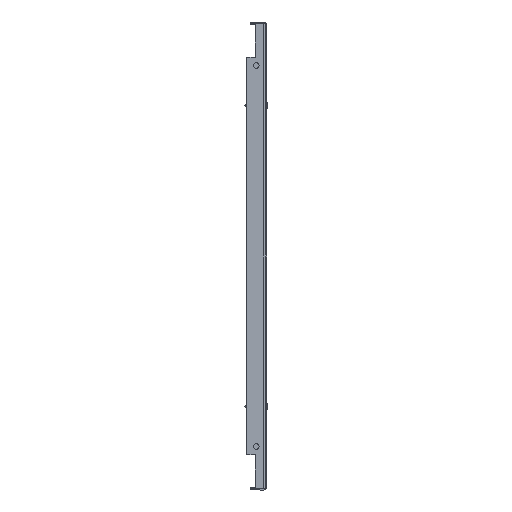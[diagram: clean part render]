
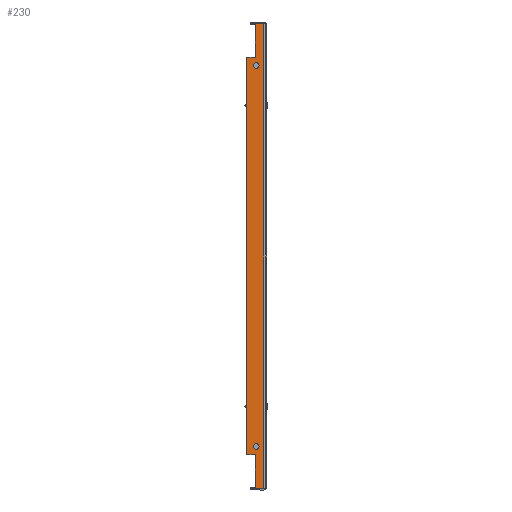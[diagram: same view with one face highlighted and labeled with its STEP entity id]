
A CAD part, front view. The second image highlights one B-rep face of the part: STEP entity #230.
In plain terms, the highlighted planar face has unit normal (0, -1, 0).
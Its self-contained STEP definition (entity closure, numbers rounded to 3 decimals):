
#102 = EDGE_CURVE ( 'NONE', #4314, #9450, #3471, .T. ) ;
#198 = VERTEX_POINT ( 'NONE', #2641 ) ;
#230 = ADVANCED_FACE ( 'NONE', ( #3198, #3211, #3208 ), #2445, .F. ) ;
#466 = DIRECTION ( 'NONE',  ( -1., 0., 0. ) ) ;
#636 = CARTESIAN_POINT ( 'NONE',  ( -196.911, -691.5, 10.003 ) ) ;
#660 = VERTEX_POINT ( 'NONE', #8490 ) ;
#721 = CARTESIAN_POINT ( 'NONE',  ( 196.911, -691.5, 10.003 ) ) ;
#891 = EDGE_CURVE ( 'NONE', #8601, #9450, #1405, .T. ) ;
#903 = EDGE_CURVE ( 'NONE', #3671, #8969, #1383, .T. ) ;
#1377 = AXIS2_PLACEMENT_3D ( 'NONE', #7249, #7227, #7210 ) ;
#1383 = CIRCLE ( 'NONE', #5848, 2.781 ) ;
#1396 = CIRCLE ( 'NONE', #3361, 2.781 ) ;
#1405 = LINE ( 'NONE', #5035, #4795 ) ;
#1726 = DIRECTION ( 'NONE',  ( -1., 0., 0. ) ) ;
#1791 = EDGE_CURVE ( 'NONE', #4289, #8601, #6482, .T. ) ;
#1914 = ORIENTED_EDGE ( 'NONE', *, *, #7417, .T. ) ;
#1915 = ORIENTED_EDGE ( 'NONE', *, *, #903, .T. ) ;
#2209 = DIRECTION ( 'NONE',  ( -1., 0., 0. ) ) ;
#2229 = DIRECTION ( 'NONE',  ( 0., 1., 0. ) ) ;
#2276 = CARTESIAN_POINT ( 'NONE',  ( -229.079, -691.5, 18.606 ) ) ;
#2445 = PLANE ( 'NONE',  #4639 ) ;
#2478 = CARTESIAN_POINT ( 'NONE',  ( -229.079, -691.5, 18.606 ) ) ;
#2569 = LINE ( 'NONE', #5605, #2974 ) ;
#2588 = ORIENTED_EDGE ( 'NONE', *, *, #5049, .T. ) ;
#2641 = CARTESIAN_POINT ( 'NONE',  ( 196.911, -691.5, 18.606 ) ) ;
#2667 = DIRECTION ( 'NONE',  ( 0., 1., 0. ) ) ;
#2974 = VECTOR ( 'NONE', #5585, 1000. ) ;
#3198 = FACE_BOUND ( 'NONE', #7966, .T. ) ;
#3208 = FACE_OUTER_BOUND ( 'NONE', #6829, .T. ) ;
#3211 = FACE_BOUND ( 'NONE', #8621, .T. ) ;
#3361 = AXIS2_PLACEMENT_3D ( 'NONE', #9077, #8966, #8943 ) ;
#3458 = VECTOR ( 'NONE', #5187, 1000. ) ;
#3471 = LINE ( 'NONE', #5218, #3458 ) ;
#3671 = VERTEX_POINT ( 'NONE', #6755 ) ;
#3798 = EDGE_CURVE ( 'NONE', #9813, #198, #2569, .T. ) ;
#3972 = VECTOR ( 'NONE', #5903, 1000. ) ;
#4105 = LINE ( 'NONE', #6542, #3972 ) ;
#4129 = EDGE_CURVE ( 'NONE', #660, #9221, #1396, .T. ) ;
#4289 = VERTEX_POINT ( 'NONE', #6455 ) ;
#4314 = VERTEX_POINT ( 'NONE', #7046 ) ;
#4639 = AXIS2_PLACEMENT_3D ( 'NONE', #2276, #2229, #2209 ) ;
#4795 = VECTOR ( 'NONE', #5242, 1000. ) ;
#4817 = DIRECTION ( 'NONE',  ( -1., 0., 0. ) ) ;
#4825 = DIRECTION ( 'NONE',  ( 0., 1., 0. ) ) ;
#4832 = ORIENTED_EDGE ( 'NONE', *, *, #4129, .T. ) ;
#4858 = CARTESIAN_POINT ( 'NONE',  ( -188.82, -691.5, 9.081 ) ) ;
#5021 = ORIENTED_EDGE ( 'NONE', *, *, #102, .F. ) ;
#5035 = CARTESIAN_POINT ( 'NONE',  ( -229.079, -691.5, 10.003 ) ) ;
#5049 = EDGE_CURVE ( 'NONE', #198, #4289, #7519, .T. ) ;
#5187 = DIRECTION ( 'NONE',  ( 0., 0., 1. ) ) ;
#5218 = CARTESIAN_POINT ( 'NONE',  ( -230.503, -691.5, 1.524 ) ) ;
#5242 = DIRECTION ( 'NONE',  ( -1., 0., 0. ) ) ;
#5253 = VECTOR ( 'NONE', #7176, 1000. ) ;
#5369 = ORIENTED_EDGE ( 'NONE', *, *, #1791, .T. ) ;
#5530 = VERTEX_POINT ( 'NONE', #8055 ) ;
#5585 = DIRECTION ( 'NONE',  ( 0., 0., 1. ) ) ;
#5588 = ORIENTED_EDGE ( 'NONE', *, *, #891, .T. ) ;
#5594 = CARTESIAN_POINT ( 'NONE',  ( -230.503, -691.5, 10.003 ) ) ;
#5605 = CARTESIAN_POINT ( 'NONE',  ( 196.911, -691.5, 18.606 ) ) ;
#5764 = EDGE_CURVE ( 'NONE', #5530, #9813, #4105, .T. ) ;
#5848 = AXIS2_PLACEMENT_3D ( 'NONE', #4858, #4825, #4817 ) ;
#5903 = DIRECTION ( 'NONE',  ( -1., 0., 0. ) ) ;
#6188 = ORIENTED_EDGE ( 'NONE', *, *, #7398, .T. ) ;
#6286 = ORIENTED_EDGE ( 'NONE', *, *, #9140, .F. ) ;
#6455 = CARTESIAN_POINT ( 'NONE',  ( -196.911, -691.5, 18.606 ) ) ;
#6482 = LINE ( 'NONE', #7114, #5253 ) ;
#6500 = CARTESIAN_POINT ( 'NONE',  ( 186.039, -691.5, 9.081 ) ) ;
#6542 = CARTESIAN_POINT ( 'NONE',  ( -229.079, -691.5, 10.003 ) ) ;
#6589 = CIRCLE ( 'NONE', #1377, 2.781 ) ;
#6606 = VECTOR ( 'NONE', #7653, 1000. ) ;
#6622 = DIRECTION ( 'NONE',  ( -1., 0., 0. ) ) ;
#6647 = AXIS2_PLACEMENT_3D ( 'NONE', #9852, #2667, #6622 ) ;
#6706 = CARTESIAN_POINT ( 'NONE',  ( -229.079, -691.5, 1.524 ) ) ;
#6755 = CARTESIAN_POINT ( 'NONE',  ( -186.039, -691.5, 9.081 ) ) ;
#6829 = EDGE_LOOP ( 'NONE', ( #9603, #7075, #2588, #5369, #5588, #5021, #6286, #6188 ) ) ;
#6844 = LINE ( 'NONE', #7831, #6606 ) ;
#7046 = CARTESIAN_POINT ( 'NONE',  ( -230.503, -691.5, 1.524 ) ) ;
#7075 = ORIENTED_EDGE ( 'NONE', *, *, #3798, .T. ) ;
#7114 = CARTESIAN_POINT ( 'NONE',  ( -196.911, -691.5, 18.606 ) ) ;
#7173 = ORIENTED_EDGE ( 'NONE', *, *, #8923, .T. ) ;
#7176 = DIRECTION ( 'NONE',  ( 0., 0., -1. ) ) ;
#7210 = DIRECTION ( 'NONE',  ( -1., 0., 0. ) ) ;
#7227 = DIRECTION ( 'NONE',  ( 0., 1., 0. ) ) ;
#7249 = CARTESIAN_POINT ( 'NONE',  ( -188.82, -691.5, 9.081 ) ) ;
#7398 = EDGE_CURVE ( 'NONE', #9351, #5530, #6844, .T. ) ;
#7417 = EDGE_CURVE ( 'NONE', #8969, #3671, #6589, .T. ) ;
#7519 = LINE ( 'NONE', #2478, #9936 ) ;
#7560 = CARTESIAN_POINT ( 'NONE',  ( -191.601, -691.5, 9.081 ) ) ;
#7653 = DIRECTION ( 'NONE',  ( 0., 0., 1. ) ) ;
#7831 = CARTESIAN_POINT ( 'NONE',  ( 230.503, -691.5, 1.524 ) ) ;
#7966 = EDGE_LOOP ( 'NONE', ( #7173, #4832 ) ) ;
#8055 = CARTESIAN_POINT ( 'NONE',  ( 230.503, -691.5, 10.003 ) ) ;
#8225 = CARTESIAN_POINT ( 'NONE',  ( 230.503, -691.5, 1.524 ) ) ;
#8490 = CARTESIAN_POINT ( 'NONE',  ( 191.601, -691.5, 9.081 ) ) ;
#8601 = VERTEX_POINT ( 'NONE', #636 ) ;
#8621 = EDGE_LOOP ( 'NONE', ( #1914, #1915 ) ) ;
#8917 = LINE ( 'NONE', #6706, #9155 ) ;
#8923 = EDGE_CURVE ( 'NONE', #9221, #660, #9044, .T. ) ;
#8943 = DIRECTION ( 'NONE',  ( -1., 0., 0. ) ) ;
#8966 = DIRECTION ( 'NONE',  ( 0., 1., 0. ) ) ;
#8969 = VERTEX_POINT ( 'NONE', #7560 ) ;
#9044 = CIRCLE ( 'NONE', #6647, 2.781 ) ;
#9077 = CARTESIAN_POINT ( 'NONE',  ( 188.82, -691.5, 9.081 ) ) ;
#9140 = EDGE_CURVE ( 'NONE', #9351, #4314, #8917, .T. ) ;
#9155 = VECTOR ( 'NONE', #466, 1000. ) ;
#9221 = VERTEX_POINT ( 'NONE', #6500 ) ;
#9351 = VERTEX_POINT ( 'NONE', #8225 ) ;
#9450 = VERTEX_POINT ( 'NONE', #5594 ) ;
#9603 = ORIENTED_EDGE ( 'NONE', *, *, #5764, .T. ) ;
#9813 = VERTEX_POINT ( 'NONE', #721 ) ;
#9852 = CARTESIAN_POINT ( 'NONE',  ( 188.82, -691.5, 9.081 ) ) ;
#9936 = VECTOR ( 'NONE', #1726, 1000. ) ;
